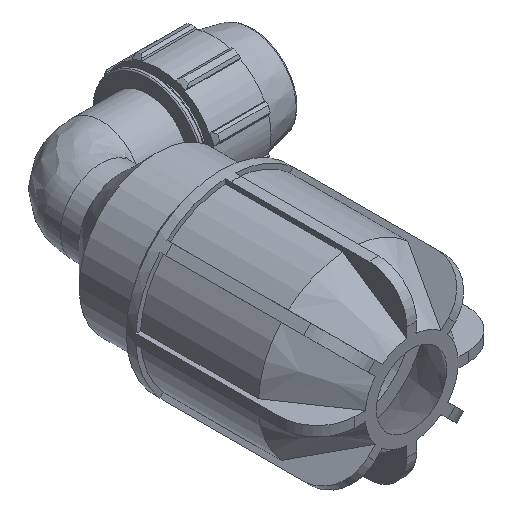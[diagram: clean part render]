
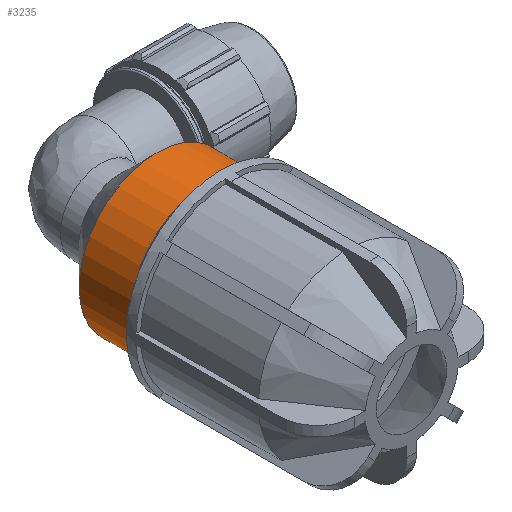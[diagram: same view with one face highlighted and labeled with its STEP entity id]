
A CAD part, isometric view. The second image highlights one B-rep face of the part: STEP entity #3235.
In plain terms, the highlighted cylindrical face has radius 34.272 mm (diameter 68.544 mm), a full revolution.
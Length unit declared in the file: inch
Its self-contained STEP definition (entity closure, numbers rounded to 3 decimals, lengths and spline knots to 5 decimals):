
#344=FACE_OUTER_BOUND('',#511,.T.);
#511=EDGE_LOOP('',(#2842,#2843,#2844,#2845,#2846,#2847));
#755=LINE('',#5541,#997);
#997=VECTOR('',#4477,1.34928);
#1164=CIRCLE('',#3578,1.34928);
#1165=CIRCLE('',#3579,1.34928);
#1166=CIRCLE('',#3581,1.34928);
#1167=CIRCLE('',#3582,1.34928);
#1476=VERTEX_POINT('',#5531);
#1477=VERTEX_POINT('',#5532);
#1478=VERTEX_POINT('',#5537);
#1479=VERTEX_POINT('',#5538);
#1934=EDGE_CURVE('',#1476,#1477,#1164,.T.);
#1935=EDGE_CURVE('',#1477,#1476,#1165,.T.);
#1937=EDGE_CURVE('',#1478,#1479,#1166,.T.);
#1938=EDGE_CURVE('',#1479,#1478,#1167,.T.);
#1939=EDGE_CURVE('',#1479,#1477,#755,.T.);
#2842=ORIENTED_EDGE('',*,*,#1937,.F.);
#2843=ORIENTED_EDGE('',*,*,#1938,.F.);
#2844=ORIENTED_EDGE('',*,*,#1939,.T.);
#2845=ORIENTED_EDGE('',*,*,#1935,.T.);
#2846=ORIENTED_EDGE('',*,*,#1934,.T.);
#2847=ORIENTED_EDGE('',*,*,#1939,.F.);
#2918=CYLINDRICAL_SURFACE('',#3580,1.34928);
#3235=ADVANCED_FACE('',(#344),#2918,.T.);
#3578=AXIS2_PLACEMENT_3D('',#5533,#4466,#4467);
#3579=AXIS2_PLACEMENT_3D('',#5534,#4468,#4469);
#3580=AXIS2_PLACEMENT_3D('',#5536,#4471,#4472);
#3581=AXIS2_PLACEMENT_3D('',#5539,#4473,#4474);
#3582=AXIS2_PLACEMENT_3D('',#5540,#4475,#4476);
#4466=DIRECTION('center_axis',(0.,1.,0.));
#4467=DIRECTION('ref_axis',(1.,0.,0.));
#4468=DIRECTION('center_axis',(0.,1.,0.));
#4469=DIRECTION('ref_axis',(1.,0.,0.));
#4471=DIRECTION('center_axis',(0.,1.,0.));
#4472=DIRECTION('ref_axis',(-1.,0.,0.));
#4473=DIRECTION('center_axis',(0.,1.,0.));
#4474=DIRECTION('ref_axis',(1.,0.,0.));
#4475=DIRECTION('center_axis',(0.,1.,0.));
#4476=DIRECTION('ref_axis',(1.,0.,0.));
#4477=DIRECTION('',(0.,-1.,0.));
#5531=CARTESIAN_POINT('',(-1.34928,-2.492,0.));
#5532=CARTESIAN_POINT('',(1.34928,-2.492,0.));
#5533=CARTESIAN_POINT('Origin',(0.,-2.492,0.));
#5534=CARTESIAN_POINT('Origin',(0.,-2.492,0.));
#5536=CARTESIAN_POINT('Origin',(0.,-2.051,0.));
#5537=CARTESIAN_POINT('',(-1.34928,-1.61,0.));
#5538=CARTESIAN_POINT('',(1.34928,-1.61,0.));
#5539=CARTESIAN_POINT('Origin',(0.,-1.61,0.));
#5540=CARTESIAN_POINT('Origin',(0.,-1.61,0.));
#5541=CARTESIAN_POINT('',(1.34928,-2.051,0.));
